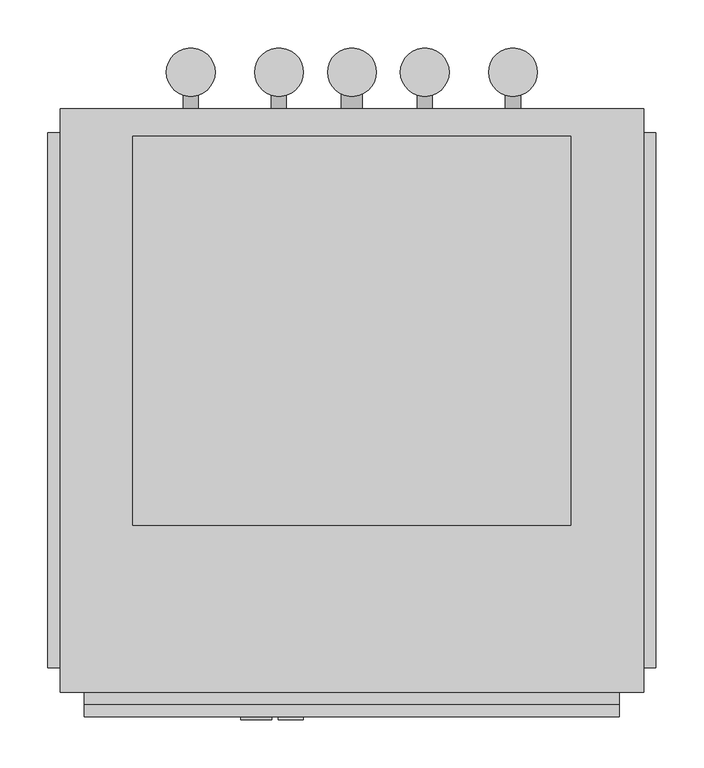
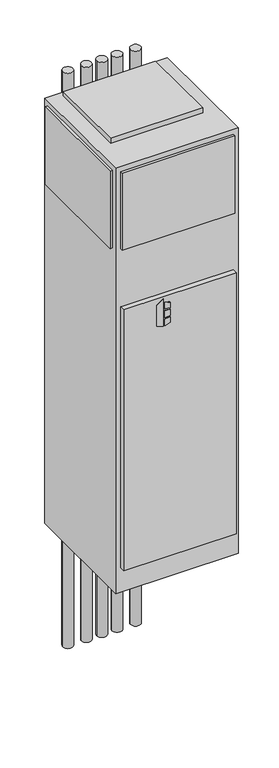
"""IFC4 building model written with IfcOpenShell, lengths in millimetres: proxy geometry, Concealed_Universal_Modular_Fan_Coil_Unit_-_MUY_-_IEC_-_4-Pipe_-_WithRisers_2022 : Size 10 - 277v/60Hz/1Ph - 4/1 Coil."""

from ifc_helpers import new_model, si_unit, point, frame, frame_2d, origin, origin_with_axes, place, context, project, spatial, polyline, circle_curve, trimmed, segment, composite_curve, outline, extrude, source, transform, mapped, element, save


def mechanical_equipment_efca1aa6(model_context):
    return source(origin(), model_context, "Body", "SweptSolid", [
        extrude(outline(polyline([(1356.1480703, 341.3868862), (1346.2, 373.5602728), (1488.3709244, 373.5602728), (1465.3489183, 341.3868862), (1356.1480703, 341.3868862)])), frame((0.0, -393.7, 0.0), z_axis=(0.0, 1.0, 0.0), x_axis=(0.0, 0.0, 1.0)), (0.0, 0.0, 1.0), 3.175),
        extrude(outline(polyline([(1435.1473557, 380.3186058), (1431.9449632, 406.4), (1461.1738042, 406.4), (1469.2382193, 380.3186058), (1435.1473557, 380.3186058)])), frame((0.0, -393.7, 0.0), z_axis=(0.0, 1.0, 0.0), x_axis=(0.0, 0.0, 1.0)), (0.0, 0.0, 1.0), 3.175),
        extrude(outline(polyline([(1383.2838288, 406.4), (1379.6183279, 380.3186058), (1346.2, 380.3186058), (1354.8342372, 406.4), (1383.2838288, 406.4)])), frame((0.0, -393.7, 0.0), z_axis=(0.0, 1.0, 0.0), x_axis=(0.0, 0.0, 1.0)), (0.0, 0.0, 1.0), 3.175),
        extrude(outline(polyline([(1422.5989903, 406.4), (1424.8808166, 380.3186058), (1388.9432681, 380.3186058), (1391.6845331, 406.4), (1422.5989903, 406.4)])), frame((0.0, -393.7, 0.0), z_axis=(0.0, 1.0, 0.0), x_axis=(0.0, 0.0, 1.0)), (0.0, 0.0, 1.0), 3.175),
        extrude(outline(composite_curve([segment(trimmed(circle_curve(frame_2d((288.925, 282.575)), 25.4), [point((263.525, 282.575))], [point((314.325, 282.575))], False, "CARTESIAN"), True, "CONTINUOUS"), segment(trimmed(circle_curve(frame_2d((288.925, 282.575)), 25.4), [point((314.325, 282.575))], [point((263.525, 282.575))], False, "CARTESIAN"), True, "CONTINUOUS")], self_intersect=False)), frame((0.0, 0.0, -711.2), z_axis=(0.0, 0.0, 1.0), x_axis=(1.0, 0.0, 0.0)), (0.0, 0.0, 1.0), 3022.6),
        extrude(outline(composite_curve([segment(trimmed(circle_curve(frame_2d((381.0, 282.575)), 25.4), [point((355.6, 282.575))], [point((406.4, 282.575))], False, "CARTESIAN"), True, "CONTINUOUS"), segment(trimmed(circle_curve(frame_2d((381.0, 282.575)), 25.4), [point((406.4, 282.575))], [point((355.6, 282.575))], False, "CARTESIAN"), True, "CONTINUOUS")], self_intersect=False)), frame((0.0, 0.0, -711.2), z_axis=(0.0, 0.0, 1.0), x_axis=(1.0, 0.0, 0.0)), (0.0, 0.0, 1.0), 3022.6),
        extrude(outline(composite_curve([segment(trimmed(circle_curve(frame_2d((457.2, 282.575)), 25.4), [point((431.8, 282.575))], [point((482.6, 282.575))], False, "CARTESIAN"), True, "CONTINUOUS"), segment(trimmed(circle_curve(frame_2d((457.2, 282.575)), 25.4), [point((482.6, 282.575))], [point((431.8, 282.575))], False, "CARTESIAN"), True, "CONTINUOUS")], self_intersect=False)), frame((0.0, 0.0, -711.2), z_axis=(0.0, 0.0, 1.0), x_axis=(1.0, 0.0, 0.0)), (0.0, 0.0, 1.0), 3022.6),
        extrude(outline(composite_curve([segment(trimmed(circle_curve(frame_2d((533.4, 282.575)), 25.4), [point((508.0, 282.575))], [point((558.8, 282.575))], False, "CARTESIAN"), True, "CONTINUOUS"), segment(trimmed(circle_curve(frame_2d((533.4, 282.575)), 25.4), [point((558.8, 282.575))], [point((508.0, 282.575))], False, "CARTESIAN"), True, "CONTINUOUS")], self_intersect=False)), frame((0.0, 0.0, -711.2), z_axis=(0.0, 0.0, 1.0), x_axis=(1.0, 0.0, 0.0)), (0.0, 0.0, 1.0), 3022.6),
        extrude(outline(composite_curve([segment(trimmed(circle_curve(frame_2d((625.475, 282.575)), 25.4), [point((600.075, 282.575))], [point((650.875, 282.575))], False, "CARTESIAN"), True, "CONTINUOUS"), segment(trimmed(circle_curve(frame_2d((625.475, 282.575)), 25.4), [point((650.875, 282.575))], [point((600.075, 282.575))], False, "CARTESIAN"), True, "CONTINUOUS")], self_intersect=False)), frame((0.0, 0.0, -711.2), z_axis=(0.0, 0.0, 1.0), x_axis=(1.0, 0.0, 0.0)), (0.0, 0.0, 1.0), 3022.6),
        extrude(outline(composite_curve([segment(trimmed(circle_curve(frame_2d((990.6, 625.475)), 7.9375), [point((990.6, 617.5375))], [point((990.6, 633.4125))], False, "CARTESIAN"), True, "CONTINUOUS"), segment(trimmed(circle_curve(frame_2d((990.6, 625.475)), 7.9375), [point((990.6, 633.4125))], [point((990.6, 617.5375))], False, "CARTESIAN"), True, "CONTINUOUS")], self_intersect=False)), frame((0.0, 244.475, 0.0), z_axis=(0.0, 1.0, 0.0), x_axis=(0.0, 0.0, 1.0)), (0.0, 0.0, 1.0), 50.8),
        extrude(outline(composite_curve([segment(trimmed(circle_curve(frame_2d((990.6, 533.4)), 7.9375), [point((990.6, 525.4625))], [point((990.6, 541.3375))], False, "CARTESIAN"), True, "CONTINUOUS"), segment(trimmed(circle_curve(frame_2d((990.6, 533.4)), 7.9375), [point((990.6, 541.3375))], [point((990.6, 525.4625))], False, "CARTESIAN"), True, "CONTINUOUS")], self_intersect=False)), frame((0.0, 244.475, 0.0), z_axis=(0.0, 1.0, 0.0), x_axis=(0.0, 0.0, 1.0)), (0.0, 0.0, 1.0), 50.8),
        extrude(outline(composite_curve([segment(trimmed(circle_curve(frame_2d((990.6, 381.0)), 7.9375), [point((990.6, 373.0625))], [point((990.6, 388.9375))], False, "CARTESIAN"), True, "CONTINUOUS"), segment(trimmed(circle_curve(frame_2d((990.6, 381.0)), 7.9375), [point((990.6, 388.9375))], [point((990.6, 373.0625))], False, "CARTESIAN"), True, "CONTINUOUS")], self_intersect=False)), frame((0.0, 244.475, 0.0), z_axis=(0.0, 1.0, 0.0), x_axis=(0.0, 0.0, 1.0)), (0.0, 0.0, 1.0), 50.8),
        extrude(outline(composite_curve([segment(trimmed(circle_curve(frame_2d((990.6, 288.925)), 7.9375), [point((990.6, 280.9875))], [point((990.6, 296.8625))], False, "CARTESIAN"), True, "CONTINUOUS"), segment(trimmed(circle_curve(frame_2d((990.6, 288.925)), 7.9375), [point((990.6, 296.8625))], [point((990.6, 280.9875))], False, "CARTESIAN"), True, "CONTINUOUS")], self_intersect=False)), frame((0.0, 244.475, 0.0), z_axis=(0.0, 1.0, 0.0), x_axis=(0.0, 0.0, 1.0)), (0.0, 0.0, 1.0), 50.8),
        extrude(outline(composite_curve([segment(trimmed(circle_curve(frame_2d((76.2, 457.2)), 11.1125), [point((76.2, 446.0875))], [point((76.2, 468.3125))], False, "CARTESIAN"), True, "CONTINUOUS"), segment(trimmed(circle_curve(frame_2d((76.2, 457.2)), 11.1125), [point((76.2, 468.3125))], [point((76.2, 446.0875))], False, "CARTESIAN"), True, "CONTINUOUS")], self_intersect=False)), frame((0.0, 244.475, 0.0), z_axis=(0.0, 1.0, 0.0), x_axis=(0.0, 0.0, 1.0)), (0.0, 0.0, 1.0), 50.8),
        extrude(outline(polyline([(685.8, 215.9), (685.8, -190.5), (228.6, -190.5), (228.6, 215.9), (685.8, 215.9)])), frame((0.0, 0.0, 2235.2), z_axis=(0.0, 0.0, 1.0), x_axis=(1.0, 0.0, 0.0)), (0.0, 0.0, 1.0), 25.4),
        extrude(outline(polyline([(139.7, -339.725), (139.7, 219.075), (152.4, 219.075), (152.4, -339.725), (139.7, -339.725)])), frame((0.0, 0.0, 1803.4), z_axis=(0.0, 0.0, 1.0), x_axis=(1.0, 0.0, 0.0)), (0.0, 0.0, 1.0), 406.4),
        extrude(outline(polyline([(774.7, 219.075), (774.7, -339.725), (762.0, -339.725), (762.0, 219.075), (774.7, 219.075)])), frame((0.0, 0.0, 1803.4), z_axis=(0.0, 0.0, 1.0), x_axis=(1.0, 0.0, 0.0)), (0.0, 0.0, 1.0), 406.4),
        extrude(outline(polyline([(736.6, -377.825), (177.8, -377.825), (177.8, -365.125), (736.6, -365.125), (736.6, -377.825)])), frame((0.0, 0.0, 1803.4), z_axis=(0.0, 0.0, 1.0), x_axis=(1.0, 0.0, 0.0)), (0.0, 0.0, 1.0), 406.4),
        extrude(outline(polyline([(736.6, -390.525), (177.8, -390.525), (177.8, -365.125), (736.6, -365.125), (736.6, -390.525)])), frame((0.0, 0.0, 127.0), z_axis=(0.0, 0.0, 1.0), x_axis=(1.0, 0.0, 0.0)), (0.0, 0.0, 1.0), 1371.6),
        extrude(outline(polyline([(762.0, 244.475), (762.0, -365.125), (152.4, -365.125), (152.4, 244.475), (762.0, 244.475)])), origin_with_axes(), (0.0, 0.0, 1.0), 2235.2),
    ])


if __name__ == "__main__":
    model = new_model("IFC4")
    model_context = context("Model", 3, world=origin())
    ifc_project = project(units=[si_unit("LENGTHUNIT", "METRE", prefix="MILLI")], contexts=[model_context])
    site = spatial("IfcSite", under=ifc_project)
    building = spatial("IfcBuilding", under=site)
    placement = place(None, origin())
    mechanical_equipment_shape = mechanical_equipment_efca1aa6(model_context)
    element("IfcBuildingElementProxy", 1, Name="Concealed_Universal_Modular_Fan_Coil_Unit_-_MUY_-_IEC_-_4-Pipe_-_WithRisers_2022 : Size 10 - 277v/60Hz/1Ph - 4/1 Coil", ObjectType="Concealed_Universal_Modular_Fan_Coil_Unit_-_MUY_-_IEC_-_4-Pipe_-_WithRisers_2022 : Size 10 - 277v/60Hz/1Ph - 4/1 Coil", at=placement, inside=building, context=model_context, shape_type="MappedRepresentation", body=[
        mapped(mechanical_equipment_shape, transform((0.0, 0.0, 0.0), x_axis=(1.0, 0.0, 0.0), y_axis=(0.0, 1.0, 0.0), z_axis=(0.0, 0.0, 1.0))),
    ])
    save(model, "model.ifc")
